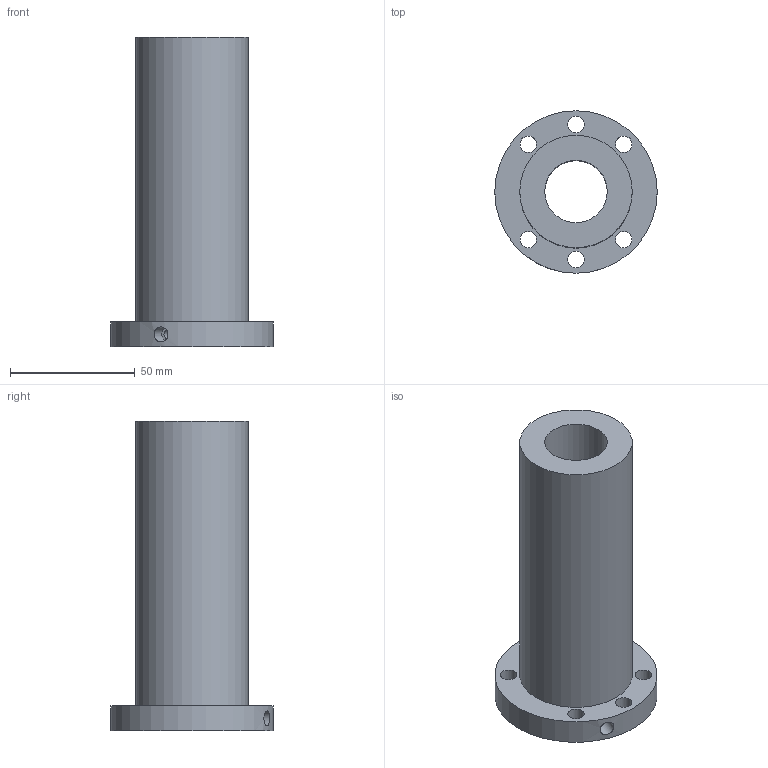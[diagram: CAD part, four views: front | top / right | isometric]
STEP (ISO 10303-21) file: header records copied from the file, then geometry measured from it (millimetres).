
FILE_DESCRIPTION(/* description */ (''),/* implementation_level */ '2;1');
FILE_NAME(/* name */ '25-10K4_3969',/* time_stamp */ '2007-10-15T12:54:02+08:00',/* author */ (''),/* organization */ (''),/* preprocessor_version */ 'ST-DEVELOPER v11',/* originating_system */ 'UGS - NX 5.0',/* authorisation */ '');
FILE_SCHEMA (('CONFIG_CONTROL_DESIGN'));
Length unit declared in the file: millimetre
Products named in the file (1): 25-10K4_3969
Bounding box: 65 x 65 x 124 mm (x, y, z)
Volume: 151194.8 mm3; surface area: 34661.8 mm2
Topology: 1 solids, 1 shells, 15 faces, 34 edges, 23 vertices
Faces by surface type: cylinder 11, plane 4
Full cylindrical faces by diameter (mm): 4 x1, 6 x1, 6.6 x6, 25 x1, 45 x1, 65 x1
Entity records: 600 total; most frequent: CARTESIAN_POINT 174, DIRECTION 72, FACE_BOUND 44, EDGE_LOOP 44, ORIENTED_EDGE 44, AXIS2_PLACEMENT_3D 36, VERTEX_POINT 22, EDGE_CURVE 22
